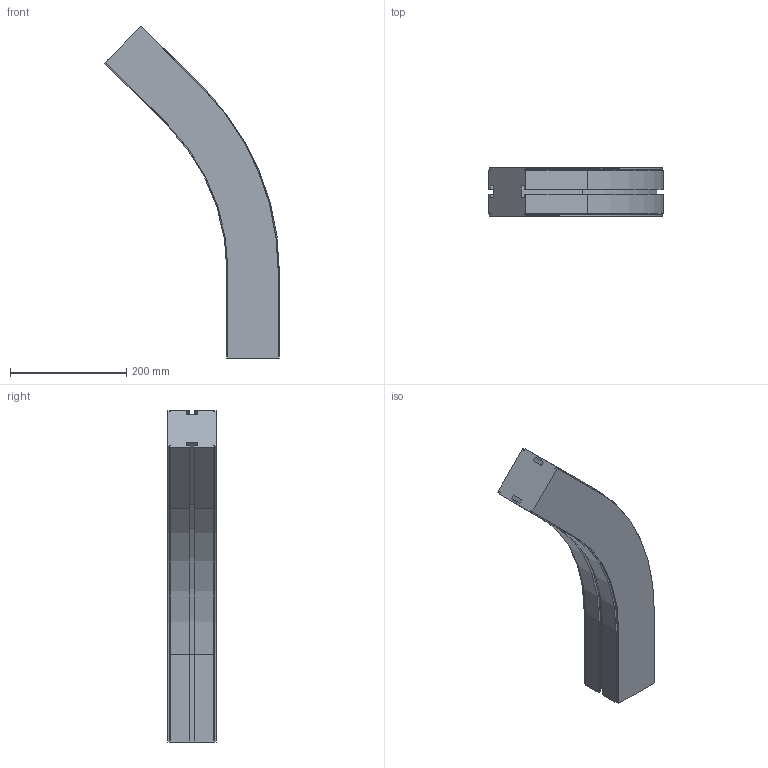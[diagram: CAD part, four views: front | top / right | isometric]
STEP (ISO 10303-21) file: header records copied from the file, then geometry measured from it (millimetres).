
FILE_DESCRIPTION (( 'STEP AP214' ), '1' );
FILE_NAME ('927810 CS090SL Horizontale bochtsectie R400 30°.STEP', '2014-03-20T14:52:03', ( 'Beheerder' ), ( '' ), 'SwSTEP 2.0', 'SolidWorks 2012', '' );
FILE_SCHEMA (( 'AUTOMOTIVE_DESIGN' ));
Length unit declared in the file: millimetre
Products named in the file (1): 927810 CS090SL Horizontale bochtsectie R400 30°
Bounding box: 300.04 x 84 x 570.73 mm (x, y, z)
Volume: 4394082.3 mm3; surface area: 293112.9 mm2
Topology: 1 solids, 1 shells, 98 faces, 272 edges, 176 vertices
Faces by surface type: plane 72, cylinder 18, cone 8
Entity records: 3126 total; most frequent: CARTESIAN_POINT 547, ORIENTED_EDGE 544, DIRECTION 514, EDGE_CURVE 272, LINE 228, VECTOR 228, VERTEX_POINT 176, AXIS2_PLACEMENT_3D 143
